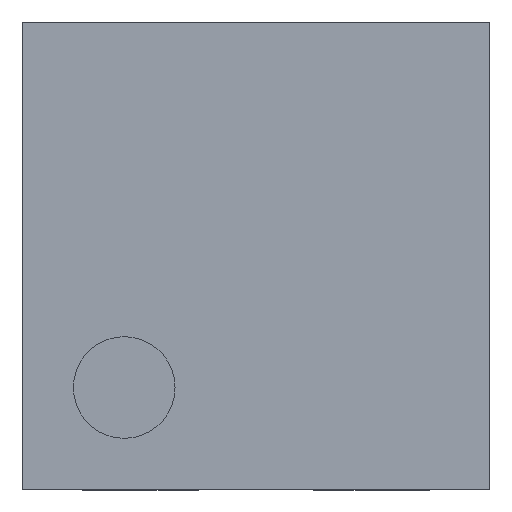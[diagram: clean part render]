
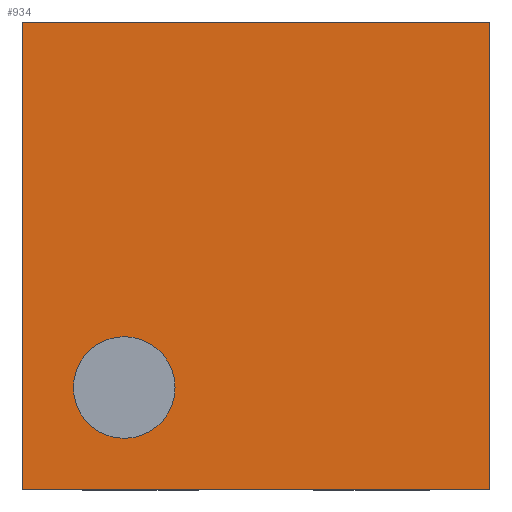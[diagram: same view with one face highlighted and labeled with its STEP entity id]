
A CAD part, top view. The second image highlights one B-rep face of the part: STEP entity #934.
In plain terms, the highlighted planar face has unit normal (0, 0, 1).
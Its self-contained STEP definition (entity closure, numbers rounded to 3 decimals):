
#34=LINE('',#1299,#141);
#116=LINE('',#1488,#223);
#118=LINE('',#1491,#225);
#119=LINE('',#1493,#226);
#141=VECTOR('',#1059,1.01);
#223=VECTOR('',#1229,1.01);
#225=VECTOR('',#1233,1.01);
#226=VECTOR('',#1236,1.01);
#263=PLANE('',#1001);
#266=FACE_BOUND('',#360,.T.);
#267=FACE_BOUND('',#361,.T.);
#360=EDGE_LOOP('',(#834));
#361=EDGE_LOOP('',(#835,#836,#837,#838));
#363=CIRCLE('',#940,0.11);
#381=VERTEX_POINT('',#1243);
#399=VERTEX_POINT('',#1296);
#400=VERTEX_POINT('',#1298);
#462=VERTEX_POINT('',#1485);
#463=VERTEX_POINT('',#1487);
#465=EDGE_CURVE('',#381,#381,#363,.T.);
#491=EDGE_CURVE('',#399,#400,#34,.T.);
#585=EDGE_CURVE('',#462,#463,#116,.T.);
#587=EDGE_CURVE('',#463,#399,#118,.T.);
#588=EDGE_CURVE('',#400,#462,#119,.T.);
#834=ORIENTED_EDGE('',*,*,#465,.T.);
#835=ORIENTED_EDGE('',*,*,#587,.F.);
#836=ORIENTED_EDGE('',*,*,#585,.F.);
#837=ORIENTED_EDGE('',*,*,#588,.F.);
#838=ORIENTED_EDGE('',*,*,#491,.F.);
#934=ADVANCED_FACE('',(#266,#267),#263,.T.);
#940=AXIS2_PLACEMENT_3D('',#1244,#1008,#1009);
#1001=AXIS2_PLACEMENT_3D('',#1494,#1237,#1238);
#1008=DIRECTION('center_axis',(0.,0.,-1.));
#1009=DIRECTION('ref_axis',(-1.,0.,0.));
#1059=DIRECTION('',(1.,0.,0.));
#1229=DIRECTION('',(-1.,0.,0.));
#1233=DIRECTION('',(0.,1.,0.));
#1236=DIRECTION('',(0.,-1.,0.));
#1237=DIRECTION('center_axis',(0.,0.,1.));
#1238=DIRECTION('ref_axis',(1.,0.,0.));
#1243=CARTESIAN_POINT('',(-0.175,-0.285,0.36));
#1244=CARTESIAN_POINT('Origin',(-0.285,-0.285,0.36));
#1296=CARTESIAN_POINT('',(-0.505,0.505,0.36));
#1298=CARTESIAN_POINT('',(0.505,0.505,0.36));
#1299=CARTESIAN_POINT('',(0.505,0.505,0.36));
#1485=CARTESIAN_POINT('',(0.505,-0.505,0.36));
#1487=CARTESIAN_POINT('',(-0.505,-0.505,0.36));
#1488=CARTESIAN_POINT('',(-0.505,-0.505,0.36));
#1491=CARTESIAN_POINT('',(-0.505,0.505,0.36));
#1493=CARTESIAN_POINT('',(0.505,-0.505,0.36));
#1494=CARTESIAN_POINT('Origin',(0.,0.,
0.36));
